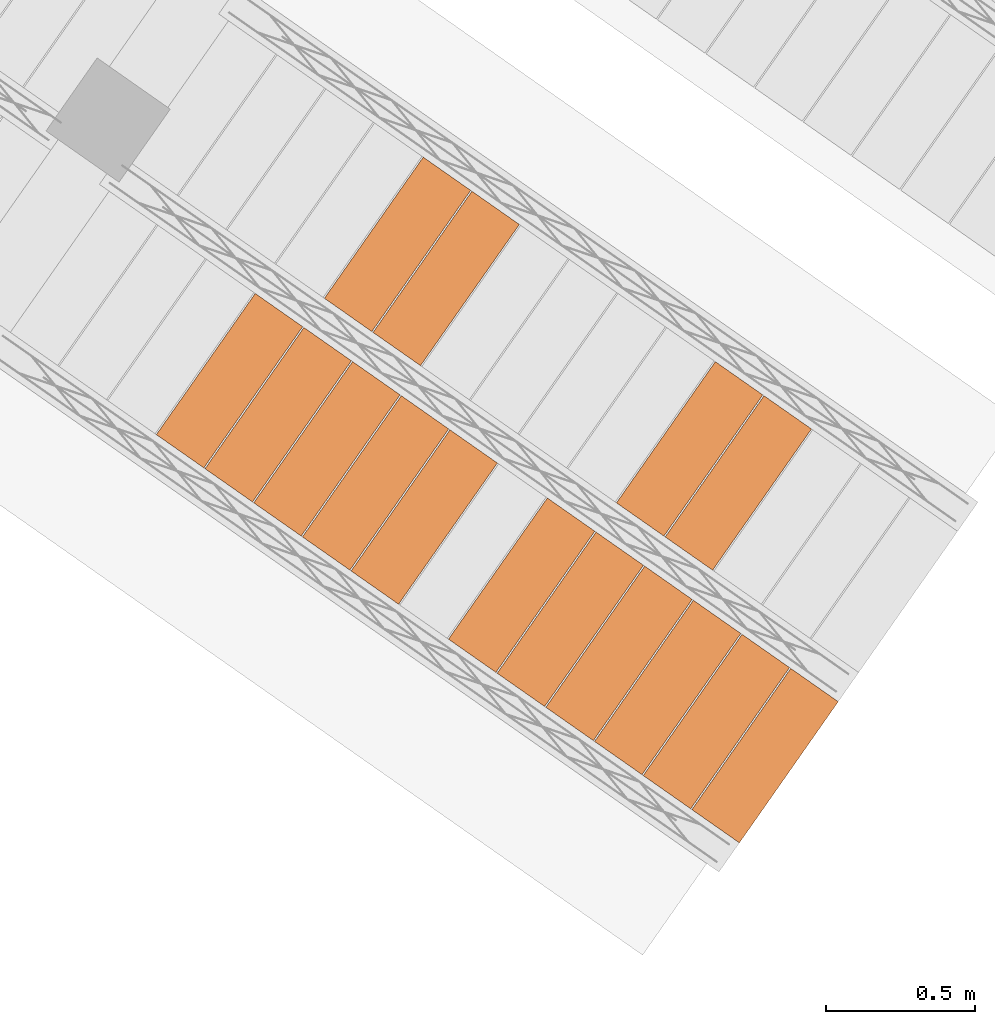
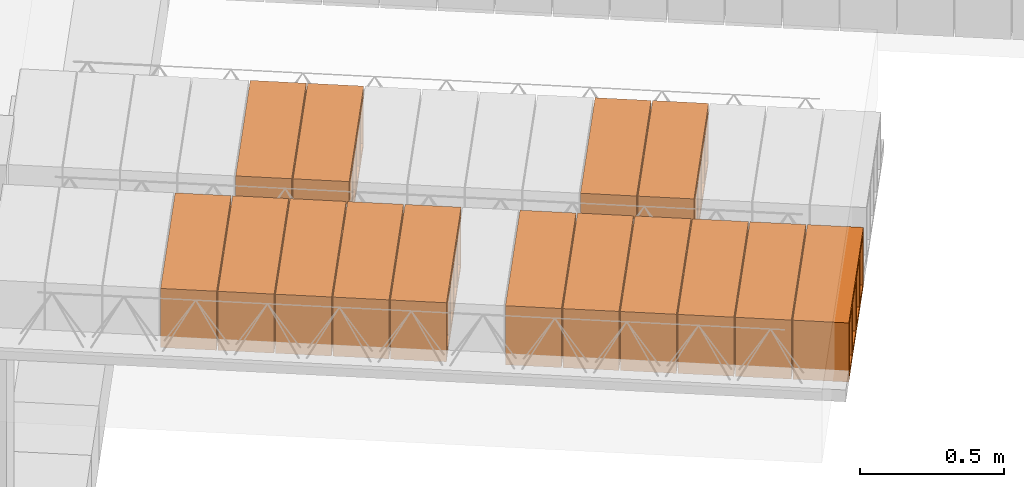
# One storey, part 54 of 80: 15 proxies.
"""IFC2X3 building model written with IfcOpenShell, lengths in metres."""

from ifc_helpers import new_model, entity, si_unit, converted_unit, derived_unit, direction, frame, origin, place, context, subcontext, project, spatial, polyline, outline, extrude, type_object, element, save


model = new_model("IFC2X3")

# Units and contexts
model_context = context("Model", 3, precision=1e-05, world=origin(), true_north=direction((6.123031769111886e-17, 1.0)))
body_context = subcontext(model_context, "Body", "Model", "MODEL_VIEW")
ifc_project = project(units=[si_unit("LENGTHUNIT", "METRE"), si_unit("AREAUNIT", "SQUARE_METRE"), si_unit("VOLUMEUNIT", "CUBIC_METRE"), converted_unit("PLANEANGLEUNIT", "DEGREE", entity("IfcPlaneAngleMeasure", 0.017453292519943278), si_unit("PLANEANGLEUNIT", "RADIAN"), dimensions=[0, 0, 0, 0, 0, 0, 0]), si_unit("MASSUNIT", "GRAM", prefix="KILO"), derived_unit("MASSDENSITYUNIT", [(si_unit("MASSUNIT", "GRAM", prefix="KILO"), 1), (si_unit("LENGTHUNIT", "METRE"), -3)]), derived_unit("IONCONCENTRATIONUNIT", [(si_unit("MASSUNIT", "GRAM", prefix="KILO"), 1), (si_unit("LENGTHUNIT", "METRE"), -3)]), derived_unit("MOMENTOFINERTIAUNIT", [(si_unit("LENGTHUNIT", "METRE"), 4)]), si_unit("TIMEUNIT", "SECOND"), si_unit("FREQUENCYUNIT", "HERTZ"), si_unit("THERMODYNAMICTEMPERATUREUNIT", "DEGREE_CELSIUS"), derived_unit("THERMALTRANSMITTANCEUNIT", [(si_unit("MASSUNIT", "GRAM", prefix="KILO"), 1), (si_unit("THERMODYNAMICTEMPERATUREUNIT", "KELVIN"), -1), (si_unit("TIMEUNIT", "SECOND"), -3)]), derived_unit("THERMALCONDUCTANCEUNIT", [(si_unit("MASSUNIT", "GRAM", prefix="KILO"), 1), (si_unit("THERMODYNAMICTEMPERATUREUNIT", "KELVIN"), -1), (si_unit("TIMEUNIT", "SECOND"), -3), (si_unit("LENGTHUNIT", "METRE"), 1)]), derived_unit("VOLUMETRICFLOWRATEUNIT", [(si_unit("LENGTHUNIT", "METRE", prefix="DECI"), 3), (si_unit("TIMEUNIT", "SECOND"), -1)]), derived_unit("MASSFLOWRATEUNIT", [(si_unit("MASSUNIT", "GRAM", prefix="KILO"), 1), (si_unit("TIMEUNIT", "SECOND"), -1)]), derived_unit("ROTATIONALFREQUENCYUNIT", [(si_unit("TIMEUNIT", "SECOND"), -1)]), si_unit("ELECTRICCURRENTUNIT", "AMPERE"), si_unit("ELECTRICVOLTAGEUNIT", "VOLT"), si_unit("POWERUNIT", "WATT"), si_unit("FORCEUNIT", "NEWTON", prefix="KILO"), si_unit("ILLUMINANCEUNIT", "LUX"), si_unit("LUMINOUSFLUXUNIT", "LUMEN"), si_unit("LUMINOUSINTENSITYUNIT", "CANDELA"), si_unit("ENERGYUNIT", "JOULE"), derived_unit("USERDEFINED", [(si_unit("MASSUNIT", "GRAM", prefix="KILO"), -1), (si_unit("LENGTHUNIT", "METRE"), -2), (si_unit("TIMEUNIT", "SECOND"), 3), (si_unit("LUMINOUSFLUXUNIT", "LUMEN"), 1)]), derived_unit("USERDEFINED", [(si_unit("MASSUNIT", "GRAM", prefix="KILO"), 1), (si_unit("TIMEUNIT", "SECOND"), -3), (si_unit("LENGTHUNIT", "METRE"), 3), (si_unit("ELECTRICCURRENTUNIT", "AMPERE"), -2)]), derived_unit("SOUNDPOWERUNIT", [(si_unit("MASSUNIT", "GRAM", prefix="KILO"), 1), (si_unit("TIMEUNIT", "SECOND"), -3), (si_unit("LENGTHUNIT", "METRE"), 2)]), derived_unit("SOUNDPRESSUREUNIT", [(si_unit("MASSUNIT", "GRAM", prefix="KILO"), 1), (si_unit("LENGTHUNIT", "METRE"), -1), (si_unit("TIMEUNIT", "SECOND"), -2)]), derived_unit("LINEARVELOCITYUNIT", [(si_unit("LENGTHUNIT", "METRE"), 1), (si_unit("TIMEUNIT", "SECOND"), -1)]), si_unit("PRESSUREUNIT", "PASCAL"), derived_unit("USERDEFINED", [(si_unit("MASSUNIT", "GRAM", prefix="KILO"), 1), (si_unit("LENGTHUNIT", "METRE"), -2), (si_unit("TIMEUNIT", "SECOND"), -2)]), derived_unit("LINEARFORCEUNIT", [(si_unit("MASSUNIT", "GRAM", prefix="KILO"), 1), (si_unit("TIMEUNIT", "SECOND"), -2)]), derived_unit("PLANARFORCEUNIT", [(si_unit("MASSUNIT", "GRAM", prefix="KILO"), 1), (si_unit("LENGTHUNIT", "METRE"), -1), (si_unit("TIMEUNIT", "SECOND"), -2)]), derived_unit("SPECIFICHEATCAPACITYUNIT", [(si_unit("THERMODYNAMICTEMPERATUREUNIT", "KELVIN"), -1), (si_unit("LENGTHUNIT", "METRE"), 2), (si_unit("TIMEUNIT", "SECOND"), -2)]), derived_unit("HEATFLUXDENSITYUNIT", [(si_unit("MASSUNIT", "GRAM", prefix="KILO"), 1), (si_unit("TIMEUNIT", "SECOND"), -3)]), derived_unit("HEATINGVALUEUNIT", [(si_unit("LENGTHUNIT", "METRE"), 2), (si_unit("TIMEUNIT", "SECOND"), -2)]), derived_unit("VAPORPERMEABILITYUNIT", [(si_unit("LENGTHUNIT", "METRE"), -1), (si_unit("TIMEUNIT", "SECOND"), 1)]), derived_unit("DYNAMICVISCOSITYUNIT", [(si_unit("MASSUNIT", "GRAM", prefix="KILO"), 1), (si_unit("TIMEUNIT", "SECOND"), -1), (si_unit("LENGTHUNIT", "METRE"), -1)]), derived_unit("THERMALEXPANSIONCOEFFICIENTUNIT", [(si_unit("THERMODYNAMICTEMPERATUREUNIT", "KELVIN"), -1)]), derived_unit("MODULUSOFELASTICITYUNIT", [(si_unit("MASSUNIT", "GRAM", prefix="KILO"), 1), (si_unit("LENGTHUNIT", "METRE"), -1), (si_unit("TIMEUNIT", "SECOND"), -2)]), derived_unit("ISOTHERMALMOISTURECAPACITYUNIT", [(si_unit("MASSUNIT", "GRAM", prefix="KILO"), -1), (si_unit("LENGTHUNIT", "METRE"), 3)]), derived_unit("MOISTUREDIFFUSIVITYUNIT", [(si_unit("TIMEUNIT", "SECOND"), -1), (si_unit("LENGTHUNIT", "METRE"), 2)]), derived_unit("MASSPERLENGTHUNIT", [(si_unit("MASSUNIT", "GRAM", prefix="KILO"), 1), (si_unit("LENGTHUNIT", "METRE"), -1)]), derived_unit("THERMALRESISTANCEUNIT", [(si_unit("MASSUNIT", "GRAM", prefix="KILO"), -1), (si_unit("TIMEUNIT", "SECOND"), 3), (si_unit("THERMODYNAMICTEMPERATUREUNIT", "KELVIN"), 1)]), derived_unit("ACCELERATIONUNIT", [(si_unit("LENGTHUNIT", "METRE"), 1), (si_unit("TIMEUNIT", "SECOND"), -2)]), derived_unit("ANGULARVELOCITYUNIT", [(si_unit("TIMEUNIT", "SECOND"), -1), (si_unit("PLANEANGLEUNIT", "RADIAN"), 1)]), derived_unit("LINEARSTIFFNESSUNIT", [(si_unit("MASSUNIT", "GRAM", prefix="KILO"), 1), (si_unit("TIMEUNIT", "SECOND"), -2)]), derived_unit("WARPINGCONSTANTUNIT", [(si_unit("LENGTHUNIT", "METRE"), 6)]), derived_unit("LINEARMOMENTUNIT", [(si_unit("MASSUNIT", "GRAM", prefix="KILO"), 1), (si_unit("LENGTHUNIT", "METRE"), 1), (si_unit("TIMEUNIT", "SECOND"), -2)]), derived_unit("TORQUEUNIT", [(si_unit("MASSUNIT", "GRAM", prefix="KILO"), 1), (si_unit("LENGTHUNIT", "METRE"), 2), (si_unit("TIMEUNIT", "SECOND"), -2)])], contexts=[model_context])

# Site, building, storey
site_placement = place(None, origin())
site = spatial("IfcSite", under=ifc_project, at=site_placement, Name="Default", CompositionType="ELEMENT")
building_placement = place(site_placement, origin())
building = spatial("IfcBuilding", under=site, at=building_placement, CompositionType="ELEMENT")
storey_placement = place(building_placement, frame((0.0, 0.0, 95.94)))
storey = spatial("IfcBuildingStorey", under=building, at=storey_placement, Name="PB", CompositionType="ELEMENT", Elevation=95.94)

# Proxies
building_element_proxy_type_1 = type_object("IfcBuildingElementProxyType", Name="Bovedilla 1-1 (Paño 13)", PredefinedType="USERDEFINED")
proxy_1_placement = place(storey_placement, origin())
element("IfcBuildingElementProxy", 1, at=proxy_1_placement, inside=storey, type_object=building_element_proxy_type_1, Name="Bovedilla 1-1 (Paño 13)", ObjectType="FORM", context=body_context, shape_type="SweptSolid", body=[
    extrude(outline(polyline([(-0.2899999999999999, -0.12500000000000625), (0.2899999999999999, -0.12500000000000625), (0.2899999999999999, 0.12500000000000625), (-0.2899999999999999, 0.12500000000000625), (-0.2899999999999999, -0.12500000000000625)]), holes=[polyline([(0.2700000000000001, -0.10499999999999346), (0.15500000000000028, -0.10499999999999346), (0.15500000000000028, 0.10499999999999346), (0.2700000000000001, 0.10499999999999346), (0.2700000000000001, 0.042499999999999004), (0.2700000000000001, -0.10499999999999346)]), polyline([(0.009999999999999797, -0.10499999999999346), (0.009999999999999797, 0.10499999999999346), (0.1350000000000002, 0.10499999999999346), (0.1350000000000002, -0.10499999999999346), (0.009999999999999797, -0.10499999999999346)]), polyline([(-0.1350000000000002, 0.10499999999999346), (-0.00999999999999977, 0.10499999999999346), (-0.009999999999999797, -0.10499999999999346), (-0.1350000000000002, -0.10499999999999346), (-0.1350000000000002, 0.10499999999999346)]), polyline([(-0.2700000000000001, -0.10499999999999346), (-0.2700000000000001, 0.042499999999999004), (-0.2700000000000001, 0.10499999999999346), (-0.15500000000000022, 0.10499999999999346), (-0.15500000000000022, -0.10499999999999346), (-0.2700000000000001, -0.10499999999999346)])]), frame((4.27543856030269, 0.18066412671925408, 3.4050000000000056), z_axis=(0.8191520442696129, -0.5735764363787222, 0.0), x_axis=(-0.5735764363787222, -0.8191520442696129, 0.0)), (0.0, 0.0, 1.0), 0.19499999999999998),
])
building_element_proxy_type_2 = type_object("IfcBuildingElementProxyType", Name="Bovedilla 1-2 (Paño 13)", PredefinedType="USERDEFINED")
proxy_2_placement = place(storey_placement, origin())
element("IfcBuildingElementProxy", 2, at=proxy_2_placement, inside=storey, type_object=building_element_proxy_type_2, Name="Bovedilla 1-2 (Paño 13)", ObjectType="FORM", context=body_context, shape_type="SweptSolid", body=[
    extrude(outline(polyline([(-0.2899999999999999, -0.12500000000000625), (0.2899999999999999, -0.12500000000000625), (0.2899999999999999, 0.12500000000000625), (-0.2899999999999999, 0.12500000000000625), (-0.2899999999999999, -0.12500000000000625)]), holes=[polyline([(0.2700000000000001, -0.10499999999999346), (0.15500000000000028, -0.10499999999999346), (0.15500000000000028, 0.10499999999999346), (0.2700000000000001, 0.10499999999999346), (0.2700000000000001, 0.042499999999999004), (0.2700000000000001, -0.10499999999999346)]), polyline([(0.009999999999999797, -0.10499999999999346), (0.009999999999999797, 0.10499999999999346), (0.1350000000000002, 0.10499999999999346), (0.1350000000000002, -0.10499999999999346), (0.009999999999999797, -0.10499999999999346)]), polyline([(-0.13500000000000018, 0.10499999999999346), (-0.00999999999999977, 0.10499999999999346), (-0.009999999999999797, -0.10499999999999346), (-0.13500000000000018, -0.10499999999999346), (-0.13500000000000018, 0.10499999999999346)]), polyline([(-0.2700000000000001, -0.10499999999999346), (-0.2700000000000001, 0.042499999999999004), (-0.2700000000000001, 0.10499999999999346), (-0.15500000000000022, 0.10499999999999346), (-0.15500000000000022, -0.10499999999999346), (-0.2700000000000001, -0.10499999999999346)])]), frame((4.111608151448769, 0.29537941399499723, 3.4050000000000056), z_axis=(0.8191520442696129, -0.5735764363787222, 0.0), x_axis=(-0.5735764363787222, -0.8191520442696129, 0.0)), (0.0, 0.0, 1.0), 0.19499999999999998),
])
building_element_proxy_type_3 = type_object("IfcBuildingElementProxyType", Name="Bovedilla 1-3 (Paño 13)", PredefinedType="USERDEFINED")
proxy_3_placement = place(storey_placement, origin())
element("IfcBuildingElementProxy", 3, at=proxy_3_placement, inside=storey, type_object=building_element_proxy_type_3, Name="Bovedilla 1-3 (Paño 13)", ObjectType="FORM", context=body_context, shape_type="SweptSolid", body=[
    extrude(outline(polyline([(-0.28999999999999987, -0.12500000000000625), (0.2899999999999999, -0.12500000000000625), (0.2899999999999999, 0.12500000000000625), (-0.28999999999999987, 0.12500000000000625), (-0.28999999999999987, -0.12500000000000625)]), holes=[polyline([(0.2700000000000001, -0.10499999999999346), (0.15500000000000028, -0.10499999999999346), (0.15500000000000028, 0.10499999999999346), (0.2700000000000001, 0.10499999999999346), (0.2700000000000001, 0.042499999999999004), (0.2700000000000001, -0.10499999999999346)]), polyline([(0.00999999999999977, -0.10499999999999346), (0.00999999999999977, 0.10499999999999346), (0.1350000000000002, 0.10499999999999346), (0.1350000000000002, -0.10499999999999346), (0.00999999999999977, -0.10499999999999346)]), polyline([(-0.13500000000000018, 0.10499999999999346), (-0.00999999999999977, 0.10499999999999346), (-0.00999999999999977, -0.10499999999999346), (-0.13500000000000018, -0.10499999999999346), (-0.13500000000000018, 0.10499999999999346)]), polyline([(-0.27, -0.10499999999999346), (-0.27, 0.042499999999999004), (-0.27, 0.10499999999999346), (-0.15500000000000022, 0.10499999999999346), (-0.15500000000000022, -0.10499999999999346), (-0.27, -0.10499999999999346)])]), frame((3.9477777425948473, 0.4100947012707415, 3.4050000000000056), z_axis=(0.8191520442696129, -0.5735764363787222, 0.0), x_axis=(-0.5735764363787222, -0.8191520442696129, 0.0)), (0.0, 0.0, 1.0), 0.19499999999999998),
])
building_element_proxy_type_4 = type_object("IfcBuildingElementProxyType", Name="Bovedilla 1-4 (Paño 13)", PredefinedType="USERDEFINED")
proxy_4_placement = place(storey_placement, origin())
element("IfcBuildingElementProxy", 4, at=proxy_4_placement, inside=storey, type_object=building_element_proxy_type_4, Name="Bovedilla 1-4 (Paño 13)", ObjectType="FORM", context=body_context, shape_type="SweptSolid", body=[
    extrude(outline(polyline([(-0.28999999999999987, -0.12500000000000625), (0.2899999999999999, -0.12500000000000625), (0.2899999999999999, 0.12500000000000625), (-0.28999999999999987, 0.12500000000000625), (-0.28999999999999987, -0.12500000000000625)]), holes=[polyline([(0.2700000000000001, -0.10499999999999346), (0.15500000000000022, -0.10499999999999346), (0.15500000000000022, 0.10499999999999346), (0.2700000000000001, 0.10499999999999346), (0.2700000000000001, 0.042499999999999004), (0.2700000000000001, -0.10499999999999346)]), polyline([(0.00999999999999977, -0.10499999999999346), (0.00999999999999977, 0.10499999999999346), (0.13500000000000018, 0.10499999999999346), (0.13500000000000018, -0.10499999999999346), (0.00999999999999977, -0.10499999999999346)]), polyline([(-0.13500000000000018, 0.10499999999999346), (-0.00999999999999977, 0.10499999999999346), (-0.00999999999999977, -0.10499999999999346), (-0.13500000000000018, -0.10499999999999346), (-0.13500000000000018, 0.10499999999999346)]), polyline([(-0.27, -0.10499999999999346), (-0.27, 0.042499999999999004), (-0.27, 0.10499999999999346), (-0.15500000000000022, 0.10499999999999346), (-0.15500000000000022, -0.10499999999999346), (-0.27, -0.10499999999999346)])]), frame((3.7839473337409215, 0.5248099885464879, 3.4050000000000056), z_axis=(0.8191520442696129, -0.5735764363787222, 0.0), x_axis=(-0.5735764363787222, -0.8191520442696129, 0.0)), (0.0, 0.0, 1.0), 0.19499999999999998),
])
building_element_proxy_type_5 = type_object("IfcBuildingElementProxyType", Name="Bovedilla 1-5 (Paño 13)", PredefinedType="USERDEFINED")
proxy_5_placement = place(storey_placement, origin())
element("IfcBuildingElementProxy", 5, at=proxy_5_placement, inside=storey, type_object=building_element_proxy_type_5, Name="Bovedilla 1-5 (Paño 13)", ObjectType="FORM", context=body_context, shape_type="SweptSolid", body=[
    extrude(outline(polyline([(-0.28999999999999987, -0.12500000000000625), (0.2899999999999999, -0.12500000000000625), (0.2899999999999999, 0.12500000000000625), (-0.28999999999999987, 0.12500000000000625), (-0.28999999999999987, -0.12500000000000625)]), holes=[polyline([(0.2700000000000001, -0.10499999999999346), (0.15500000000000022, -0.10499999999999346), (0.15500000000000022, 0.10499999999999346), (0.2700000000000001, 0.10499999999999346), (0.2700000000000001, 0.042499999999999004), (0.2700000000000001, -0.10499999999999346)]), polyline([(0.009999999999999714, -0.10499999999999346), (0.009999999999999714, 0.10499999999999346), (0.13500000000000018, 0.10499999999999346), (0.13500000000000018, -0.10499999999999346), (0.009999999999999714, -0.10499999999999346)]), polyline([(-0.13500000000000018, 0.10499999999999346), (-0.009999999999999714, 0.10499999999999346), (-0.009999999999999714, -0.10499999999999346), (-0.13500000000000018, -0.10499999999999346), (-0.13500000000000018, 0.10499999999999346)]), polyline([(-0.27, -0.10499999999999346), (-0.27, 0.042499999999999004), (-0.27, 0.10499999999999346), (-0.15500000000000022, 0.10499999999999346), (-0.15500000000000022, -0.10499999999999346), (-0.27, -0.10499999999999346)])]), frame((3.6201169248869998, 0.6395252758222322, 3.4050000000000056), z_axis=(0.8191520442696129, -0.5735764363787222, 0.0), x_axis=(-0.5735764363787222, -0.8191520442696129, 0.0)), (0.0, 0.0, 1.0), 0.19499999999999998),
])
building_element_proxy_type_6 = type_object("IfcBuildingElementProxyType", Name="Bovedilla 1-6 (Paño 13)", PredefinedType="USERDEFINED")
proxy_6_placement = place(storey_placement, origin())
element("IfcBuildingElementProxy", 6, at=proxy_6_placement, inside=storey, type_object=building_element_proxy_type_6, Name="Bovedilla 1-6 (Paño 13)", ObjectType="FORM", context=body_context, shape_type="SweptSolid", body=[
    extrude(outline(polyline([(-0.28999999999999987, -0.12500000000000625), (0.2899999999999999, -0.12500000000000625), (0.2899999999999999, 0.12500000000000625), (-0.28999999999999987, 0.12500000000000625), (-0.28999999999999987, -0.12500000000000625)]), holes=[polyline([(0.2700000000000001, -0.10499999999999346), (0.15500000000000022, -0.10499999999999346), (0.15500000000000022, 0.10499999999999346), (0.2700000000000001, 0.10499999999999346), (0.2700000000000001, 0.042499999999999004), (0.2700000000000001, -0.10499999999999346)]), polyline([(0.009999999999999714, -0.10499999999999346), (0.009999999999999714, 0.10499999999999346), (0.13500000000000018, 0.10499999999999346), (0.13500000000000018, -0.10499999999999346), (0.009999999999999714, -0.10499999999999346)]), polyline([(-0.13500000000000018, 0.10499999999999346), (-0.009999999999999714, 0.10499999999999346), (-0.009999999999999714, -0.10499999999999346), (-0.13500000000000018, -0.10499999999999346), (-0.13500000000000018, 0.10499999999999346)]), polyline([(-0.27, -0.10499999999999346), (-0.27, 0.042499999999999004), (-0.27, 0.10499999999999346), (-0.15500000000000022, 0.10499999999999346), (-0.15500000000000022, -0.10499999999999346), (-0.27, -0.10499999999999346)])]), frame((3.4562865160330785, 0.7542405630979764, 3.4050000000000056), z_axis=(0.8191520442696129, -0.5735764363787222, 0.0), x_axis=(-0.5735764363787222, -0.8191520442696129, 0.0)), (0.0, 0.0, 1.0), 0.19499999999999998),
])
building_element_proxy_type_7 = type_object("IfcBuildingElementProxyType", Name="Bovedilla 1-8 (Paño 13)", PredefinedType="USERDEFINED")
proxy_7_placement = place(storey_placement, origin())
element("IfcBuildingElementProxy", 7, at=proxy_7_placement, inside=storey, type_object=building_element_proxy_type_7, Name="Bovedilla 1-8 (Paño 13)", ObjectType="FORM", context=body_context, shape_type="SweptSolid", body=[
    extrude(outline(polyline([(-0.28999999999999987, -0.12500000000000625), (0.28999999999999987, -0.12500000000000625), (0.28999999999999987, 0.12500000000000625), (-0.28999999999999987, 0.12500000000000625), (-0.28999999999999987, -0.12500000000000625)]), holes=[polyline([(0.27000000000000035, -0.10499999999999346), (0.15500000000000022, -0.10499999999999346), (0.15500000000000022, 0.10499999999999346), (0.27000000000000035, 0.10499999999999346), (0.27000000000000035, 0.042499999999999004), (0.27000000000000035, -0.10499999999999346)]), polyline([(0.009999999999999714, -0.10499999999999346), (0.009999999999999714, 0.10499999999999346), (0.13500000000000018, 0.10499999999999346), (0.13500000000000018, -0.10499999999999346), (0.009999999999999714, -0.10499999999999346)]), polyline([(-0.13500000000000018, 0.10499999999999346), (-0.009999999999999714, 0.10499999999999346), (-0.009999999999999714, -0.10499999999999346), (-0.13500000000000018, -0.10499999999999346), (-0.13500000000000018, 0.10499999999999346)]), polyline([(-0.27000000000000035, -0.10499999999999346), (-0.27000000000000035, 0.042499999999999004), (-0.27000000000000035, 0.10499999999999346), (-0.15500000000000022, 0.10499999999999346), (-0.15500000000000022, -0.10499999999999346), (-0.27000000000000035, -0.10499999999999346)])]), frame((3.1286256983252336, 0.9836711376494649, 3.4050000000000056), z_axis=(0.8191520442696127, -0.5735764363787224, 0.0), x_axis=(-0.5735764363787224, -0.8191520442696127, 0.0)), (0.0, 0.0, 1.0), 0.19499999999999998),
])
building_element_proxy_type_8 = type_object("IfcBuildingElementProxyType", Name="Bovedilla 1-9 (Paño 13)", PredefinedType="USERDEFINED")
proxy_8_placement = place(storey_placement, origin())
element("IfcBuildingElementProxy", 8, at=proxy_8_placement, inside=storey, type_object=building_element_proxy_type_8, Name="Bovedilla 1-9 (Paño 13)", ObjectType="FORM", context=body_context, shape_type="SweptSolid", body=[
    extrude(outline(polyline([(-0.28999999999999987, -0.12500000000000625), (0.28999999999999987, -0.12500000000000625), (0.28999999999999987, 0.12500000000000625), (-0.28999999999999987, 0.12500000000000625), (-0.28999999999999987, -0.12500000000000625)]), holes=[polyline([(0.27000000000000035, -0.10499999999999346), (0.15500000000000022, -0.10499999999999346), (0.15500000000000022, 0.10499999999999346), (0.27000000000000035, 0.10499999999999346), (0.27000000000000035, 0.042499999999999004), (0.27000000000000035, -0.10499999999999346)]), polyline([(0.009999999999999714, -0.10499999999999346), (0.009999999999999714, 0.10499999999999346), (0.13500000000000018, 0.10499999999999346), (0.13500000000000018, -0.10499999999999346), (0.009999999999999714, -0.10499999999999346)]), polyline([(-0.13500000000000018, 0.10499999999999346), (-0.009999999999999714, 0.10499999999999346), (-0.009999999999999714, -0.10499999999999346), (-0.13500000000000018, -0.10499999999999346), (-0.13500000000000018, 0.10499999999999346)]), polyline([(-0.27000000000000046, -0.10499999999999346), (-0.27000000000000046, 0.042499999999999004), (-0.27000000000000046, 0.10499999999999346), (-0.15500000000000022, 0.10499999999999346), (-0.15500000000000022, -0.10499999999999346), (-0.27000000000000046, -0.10499999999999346)])]), frame((2.964795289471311, 1.098386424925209, 3.4050000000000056), z_axis=(0.8191520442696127, -0.5735764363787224, 0.0), x_axis=(-0.5735764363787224, -0.8191520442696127, 0.0)), (0.0, 0.0, 1.0), 0.19499999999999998),
])
building_element_proxy_type_9 = type_object("IfcBuildingElementProxyType", Name="Bovedilla 1-10 (Paño 13)", PredefinedType="USERDEFINED")
proxy_9_placement = place(storey_placement, origin())
element("IfcBuildingElementProxy", 9, at=proxy_9_placement, inside=storey, type_object=building_element_proxy_type_9, Name="Bovedilla 1-10 (Paño 13)", ObjectType="FORM", context=body_context, shape_type="SweptSolid", body=[
    extrude(outline(polyline([(-0.28999999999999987, -0.12500000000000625), (0.28999999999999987, -0.12500000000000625), (0.28999999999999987, 0.12500000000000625), (-0.28999999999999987, 0.12500000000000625), (-0.28999999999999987, -0.12500000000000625)]), holes=[polyline([(0.27000000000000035, -0.10499999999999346), (0.15500000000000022, -0.10499999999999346), (0.15500000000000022, 0.10499999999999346), (0.27000000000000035, 0.10499999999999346), (0.27000000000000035, 0.042499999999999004), (0.27000000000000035, -0.10499999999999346)]), polyline([(0.009999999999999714, -0.10499999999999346), (0.009999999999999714, 0.10499999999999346), (0.13500000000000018, 0.10499999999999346), (0.13500000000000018, -0.10499999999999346), (0.009999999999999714, -0.10499999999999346)]), polyline([(-0.13500000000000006, 0.10499999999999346), (-0.009999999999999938, 0.10499999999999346), (-0.009999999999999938, -0.10499999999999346), (-0.13500000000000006, -0.10499999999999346), (-0.13500000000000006, 0.10499999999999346)]), polyline([(-0.27000000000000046, -0.10499999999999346), (-0.27000000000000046, 0.042499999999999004), (-0.27000000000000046, 0.10499999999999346), (-0.15500000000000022, 0.10499999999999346), (-0.15500000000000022, -0.10499999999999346), (-0.27000000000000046, -0.10499999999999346)])]), frame((2.8009648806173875, 1.2131017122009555, 3.4050000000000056), z_axis=(0.8191520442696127, -0.5735764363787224, 0.0), x_axis=(-0.5735764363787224, -0.8191520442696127, 0.0)), (0.0, 0.0, 1.0), 0.19499999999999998),
])
building_element_proxy_type_10 = type_object("IfcBuildingElementProxyType", Name="Bovedilla 1-11 (Paño 13)", PredefinedType="USERDEFINED")
proxy_10_placement = place(storey_placement, origin())
element("IfcBuildingElementProxy", 10, at=proxy_10_placement, inside=storey, type_object=building_element_proxy_type_10, Name="Bovedilla 1-11 (Paño 13)", ObjectType="FORM", context=body_context, shape_type="SweptSolid", body=[
    extrude(outline(polyline([(-0.29, -0.12500000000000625), (0.29, -0.12500000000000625), (0.29, 0.12500000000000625), (-0.29, 0.12500000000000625), (-0.29, -0.12500000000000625)]), holes=[polyline([(0.27000000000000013, -0.10499999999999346), (0.15500000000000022, -0.10499999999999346), (0.15500000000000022, 0.10499999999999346), (0.27000000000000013, 0.10499999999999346), (0.27000000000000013, 0.042499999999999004), (0.27000000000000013, -0.10499999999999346)]), polyline([(0.009999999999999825, -0.10499999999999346), (0.009999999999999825, 0.10499999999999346), (0.1350000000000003, 0.10499999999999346), (0.1350000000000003, -0.10499999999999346), (0.009999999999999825, -0.10499999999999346)]), polyline([(-0.13500000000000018, 0.10499999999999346), (-0.009999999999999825, 0.10499999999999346), (-0.009999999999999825, -0.10499999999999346), (-0.13500000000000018, -0.10499999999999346), (-0.13500000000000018, 0.10499999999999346)]), polyline([(-0.27, -0.10499999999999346), (-0.27, 0.042499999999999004), (-0.27, 0.10499999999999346), (-0.15500000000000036, 0.10499999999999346), (-0.15500000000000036, -0.10499999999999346), (-0.27, -0.10499999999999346)])]), frame((2.637134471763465, 1.3278169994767, 3.4050000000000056), z_axis=(0.819152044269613, -0.5735764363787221, 0.0), x_axis=(-0.5735764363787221, -0.819152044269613, 0.0)), (0.0, 0.0, 1.0), 0.19499999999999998),
])
building_element_proxy_type_11 = type_object("IfcBuildingElementProxyType", Name="Bovedilla 1-12 (Paño 13)", PredefinedType="USERDEFINED")
proxy_11_placement = place(storey_placement, origin())
element("IfcBuildingElementProxy", 11, at=proxy_11_placement, inside=storey, type_object=building_element_proxy_type_11, Name="Bovedilla 1-12 (Paño 13)", ObjectType="FORM", context=body_context, shape_type="SweptSolid", body=[
    extrude(outline(polyline([(-0.29, -0.12500000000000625), (0.29, -0.12500000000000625), (0.29, 0.12500000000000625), (-0.29, 0.12500000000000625), (-0.29, -0.12500000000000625)]), holes=[polyline([(0.27, -0.10499999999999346), (0.15499999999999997, -0.10499999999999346), (0.15499999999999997, 0.10499999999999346), (0.27, 0.10499999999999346), (0.27, 0.042499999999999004), (0.27, -0.10499999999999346)]), polyline([(0.009999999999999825, -0.10499999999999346), (0.009999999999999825, 0.10499999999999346), (0.13500000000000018, 0.10499999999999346), (0.13500000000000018, -0.10499999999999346), (0.009999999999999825, -0.10499999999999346)]), polyline([(-0.13500000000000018, 0.10499999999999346), (-0.009999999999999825, 0.10499999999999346), (-0.009999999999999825, -0.10499999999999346), (-0.13500000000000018, -0.10499999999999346), (-0.13500000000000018, 0.10499999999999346)]), polyline([(-0.27, -0.10499999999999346), (-0.27, 0.042499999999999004), (-0.27, 0.10499999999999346), (-0.15500000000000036, 0.10499999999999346), (-0.15500000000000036, -0.10499999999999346), (-0.27, -0.10499999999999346)])]), frame((2.4733040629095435, 1.4425322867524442, 3.4050000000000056), z_axis=(0.819152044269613, -0.5735764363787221, 0.0), x_axis=(-0.5735764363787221, -0.819152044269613, 0.0)), (0.0, 0.0, 1.0), 0.19499999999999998),
])
building_element_proxy_type_12 = type_object("IfcBuildingElementProxyType", Name="Bovedilla 2-4 (Paño 13)", PredefinedType="USERDEFINED")
proxy_12_placement = place(storey_placement, origin())
element("IfcBuildingElementProxy", 12, at=proxy_12_placement, inside=storey, type_object=building_element_proxy_type_12, Name="Bovedilla 2-4 (Paño 13)", ObjectType="FORM", context=body_context, shape_type="SweptSolid", body=[
    extrude(outline(polyline([(-0.28999999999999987, -0.12500000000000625), (0.28999999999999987, -0.12500000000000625), (0.28999999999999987, 0.12500000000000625), (-0.28999999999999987, 0.12500000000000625), (-0.28999999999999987, -0.12500000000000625)]), holes=[polyline([(0.27000000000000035, -0.10499999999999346), (0.15500000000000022, -0.10499999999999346), (0.15500000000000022, 0.10499999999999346), (0.27000000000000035, 0.10499999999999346), (0.27000000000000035, 0.042499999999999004), (0.27000000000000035, -0.10499999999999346)]), polyline([(0.009999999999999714, -0.10499999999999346), (0.009999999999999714, 0.10499999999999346), (0.13500000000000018, 0.10499999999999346), (0.13500000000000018, -0.10499999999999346), (0.009999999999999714, -0.10499999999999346)]), polyline([(-0.13500000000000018, 0.10499999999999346), (-0.009999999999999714, 0.10499999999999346), (-0.009999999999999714, -0.10499999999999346), (-0.13500000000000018, -0.10499999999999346), (-0.13500000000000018, 0.10499999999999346)]), polyline([(-0.27000000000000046, -0.10499999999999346), (-0.27000000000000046, 0.042499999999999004), (-0.27000000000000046, 0.10499999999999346), (-0.15500000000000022, 0.10499999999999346), (-0.15500000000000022, -0.10499999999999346), (-0.27000000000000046, -0.10499999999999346)])]), frame((4.185450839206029, 1.0982164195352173, 3.4050000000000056), z_axis=(0.8191520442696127, -0.5735764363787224, 0.0), x_axis=(-0.5735764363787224, -0.8191520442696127, 0.0)), (0.0, 0.0, 1.0), 0.19499999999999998),
])
building_element_proxy_type_13 = type_object("IfcBuildingElementProxyType", Name="Bovedilla 2-5 (Paño 13)", PredefinedType="USERDEFINED")
proxy_13_placement = place(storey_placement, origin())
element("IfcBuildingElementProxy", 13, at=proxy_13_placement, inside=storey, type_object=building_element_proxy_type_13, Name="Bovedilla 2-5 (Paño 13)", ObjectType="FORM", context=body_context, shape_type="SweptSolid", body=[
    extrude(outline(polyline([(-0.28999999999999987, -0.12500000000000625), (0.28999999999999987, -0.12500000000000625), (0.28999999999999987, 0.12500000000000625), (-0.28999999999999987, 0.12500000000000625), (-0.28999999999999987, -0.12500000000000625)]), holes=[polyline([(0.27000000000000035, -0.10499999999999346), (0.15500000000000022, -0.10499999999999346), (0.15500000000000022, 0.10499999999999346), (0.27000000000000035, 0.10499999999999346), (0.27000000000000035, 0.042499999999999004), (0.27000000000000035, -0.10499999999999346)]), polyline([(0.009999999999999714, -0.10499999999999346), (0.009999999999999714, 0.10499999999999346), (0.13500000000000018, 0.10499999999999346), (0.13500000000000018, -0.10499999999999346), (0.009999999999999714, -0.10499999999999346)]), polyline([(-0.13500000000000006, 0.10499999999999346), (-0.009999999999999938, 0.10499999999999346), (-0.009999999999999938, -0.10499999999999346), (-0.13500000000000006, -0.10499999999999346), (-0.13500000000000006, 0.10499999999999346)]), polyline([(-0.27000000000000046, -0.10499999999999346), (-0.27000000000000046, 0.042499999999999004), (-0.27000000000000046, 0.10499999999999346), (-0.15500000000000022, 0.10499999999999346), (-0.15500000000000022, -0.10499999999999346), (-0.27000000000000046, -0.10499999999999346)])]), frame((4.021620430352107, 1.2129317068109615, 3.4050000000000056), z_axis=(0.8191520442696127, -0.5735764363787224, 0.0), x_axis=(-0.5735764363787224, -0.8191520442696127, 0.0)), (0.0, 0.0, 1.0), 0.19499999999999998),
])
building_element_proxy_type_14 = type_object("IfcBuildingElementProxyType", Name="Bovedilla 2-10 (Paño 13)", PredefinedType="USERDEFINED")
proxy_14_placement = place(storey_placement, origin())
element("IfcBuildingElementProxy", 14, at=proxy_14_placement, inside=storey, type_object=building_element_proxy_type_14, Name="Bovedilla 2-10 (Paño 13)", ObjectType="FORM", context=body_context, shape_type="SweptSolid", body=[
    extrude(outline(polyline([(-0.29, -0.12500000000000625), (0.29, -0.12500000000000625), (0.29, 0.12500000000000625), (-0.29, 0.12500000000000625), (-0.29, -0.12500000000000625)]), holes=[polyline([(0.27, -0.10499999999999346), (0.15500000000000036, -0.10499999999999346), (0.15500000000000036, 0.10499999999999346), (0.27, 0.10499999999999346), (0.27, 0.042499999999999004), (0.27, -0.10499999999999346)]), polyline([(0.009999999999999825, -0.10499999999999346), (0.009999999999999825, 0.10499999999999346), (0.13500000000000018, 0.10499999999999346), (0.13500000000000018, -0.10499999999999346), (0.009999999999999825, -0.10499999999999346)]), polyline([(-0.13500000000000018, 0.10499999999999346), (-0.009999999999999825, 0.10499999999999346), (-0.009999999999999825, -0.10499999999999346), (-0.13500000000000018, -0.10499999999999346), (-0.13500000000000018, 0.10499999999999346)]), polyline([(-0.27, -0.10499999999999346), (-0.27, 0.042499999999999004), (-0.27, 0.10499999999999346), (-0.15500000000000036, 0.10499999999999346), (-0.15500000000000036, -0.10499999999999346), (-0.27, -0.10499999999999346)])]), frame((3.2024683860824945, 1.786508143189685, 3.4050000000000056), z_axis=(0.819152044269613, -0.5735764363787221, 0.0), x_axis=(-0.5735764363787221, -0.819152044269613, 0.0)), (0.0, 0.0, 1.0), 0.19499999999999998),
])
building_element_proxy_type_15 = type_object("IfcBuildingElementProxyType", Name="Bovedilla 2-11 (Paño 13)", PredefinedType="USERDEFINED")
proxy_15_placement = place(storey_placement, origin())
element("IfcBuildingElementProxy", 15, at=proxy_15_placement, inside=storey, type_object=building_element_proxy_type_15, Name="Bovedilla 2-11 (Paño 13)", ObjectType="FORM", context=body_context, shape_type="SweptSolid", body=[
    extrude(outline(polyline([(-0.29, -0.12500000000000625), (0.29, -0.12500000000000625), (0.29, 0.12500000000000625), (-0.29, 0.12500000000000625), (-0.29, -0.12500000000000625)]), holes=[polyline([(0.27, -0.10499999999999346), (0.15500000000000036, -0.10499999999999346), (0.15500000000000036, 0.10499999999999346), (0.27, 0.10499999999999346), (0.27, 0.042499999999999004), (0.27, -0.10499999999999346)]), polyline([(0.009999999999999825, -0.10499999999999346), (0.009999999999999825, 0.10499999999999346), (0.13500000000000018, 0.10499999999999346), (0.13500000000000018, -0.10499999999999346), (0.009999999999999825, -0.10499999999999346)]), polyline([(-0.13500000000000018, 0.10499999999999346), (-0.009999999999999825, 0.10499999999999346), (-0.009999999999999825, -0.10499999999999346), (-0.13500000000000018, -0.10499999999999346), (-0.13500000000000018, 0.10499999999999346)]), polyline([(-0.27, -0.10499999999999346), (-0.27, 0.042499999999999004), (-0.27, 0.10499999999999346), (-0.15500000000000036, 0.10499999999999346), (-0.15500000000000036, -0.10499999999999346), (-0.27, -0.10499999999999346)])]), frame((3.038637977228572, 1.9012234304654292, 3.4050000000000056), z_axis=(0.819152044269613, -0.5735764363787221, 0.0), x_axis=(-0.5735764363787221, -0.819152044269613, 0.0)), (0.0, 0.0, 1.0), 0.19499999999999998),
])

save(model, "model.ifc")
